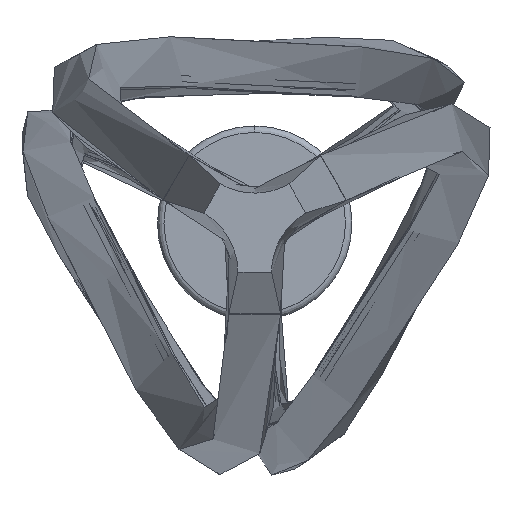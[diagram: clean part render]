
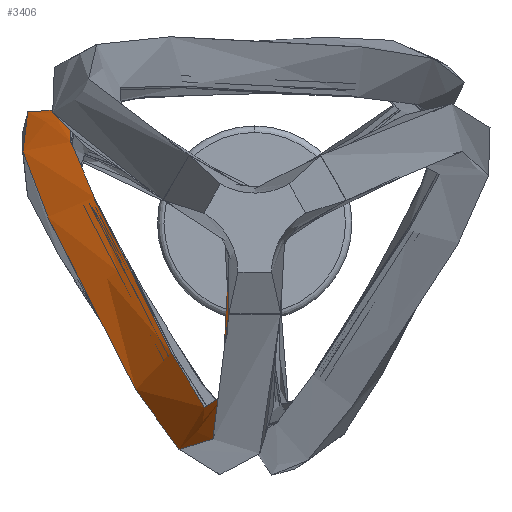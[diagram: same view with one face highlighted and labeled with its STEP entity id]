
A CAD part, front view. The second image highlights one B-rep face of the part: STEP entity #3406.
In plain terms, the highlighted free-form (B-spline) face has degree [3, 3] with [7, 7] control points.
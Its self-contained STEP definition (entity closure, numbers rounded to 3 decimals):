
#7 = CARTESIAN_POINT ( 'NONE',  ( -52.484, -1.238, -19.067 ) ) ;
#41 = CARTESIAN_POINT ( 'NONE',  ( -26.634, -205.84, -61.009 ) ) ;
#164 = CARTESIAN_POINT ( 'NONE',  ( -10.04, -853.448, -15.555 ) ) ;
#476 = EDGE_CURVE ( 'NONE', #5943, #5347, #1236, .T. ) ;
#534 = VECTOR ( 'NONE', #5679, 1000. ) ;
#625 = CARTESIAN_POINT ( 'NONE',  ( -10.064, -857.416, -33.453 ) ) ;
#656 = CARTESIAN_POINT ( 'NONE',  ( -21.331, 856.717, 23.653 ) ) ;
#684 = CARTESIAN_POINT ( 'NONE',  ( -100.992, 462.391, 70.646 ) ) ;
#696 = ORIENTED_EDGE ( 'NONE', *, *, #476, .F. ) ;
#718 = CARTESIAN_POINT ( 'NONE',  ( -69.536, 197.442, 25.523 ) ) ;
#731 = CARTESIAN_POINT ( 'NONE',  ( -10.067, -857.777, -35.081 ) ) ;
#846 = CARTESIAN_POINT ( 'NONE',  ( -25.588, 857.799, 26.041 ) ) ;
#919 = EDGE_LOOP ( 'NONE', ( #2603, #1098, #696, #4002 ) ) ;
#1048 = CARTESIAN_POINT ( 'NONE',  ( -10.04, -853.448, -15.555 ) ) ;
#1098 = ORIENTED_EDGE ( 'NONE', *, *, #8335, .T. ) ;
#1111 = CARTESIAN_POINT ( 'NONE',  ( -10.067, -857.777, -35.081 ) ) ;
#1236 = LINE ( 'NONE', #2486, #3843 ) ;
#1315 = CARTESIAN_POINT ( 'NONE',  ( -39.292, -207.339, -75.053 ) ) ;
#1348 = CARTESIAN_POINT ( 'NONE',  ( -8.68, -463.893, -120.677 ) ) ;
#1378 = CARTESIAN_POINT ( 'NONE',  ( -10.042, -853.809, -17.182 ) ) ;
#1417 = CARTESIAN_POINT ( 'NONE',  ( -8.559, 853.471, 16.488 ) ) ;
#1745 = CARTESIAN_POINT ( 'NONE',  ( -5.412, -462.365, -111.907 ) ) ;
#2015 = CARTESIAN_POINT ( 'NONE',  ( -87.655, 198.871, 21.474 ) ) ;
#2051 = CARTESIAN_POINT ( 'NONE',  ( -56.821, -1.24, -21.582 ) ) ;
#2078 = CARTESIAN_POINT ( 'NONE',  ( -27.785, -205.976, -62.286 ) ) ;
#2123 = CARTESIAN_POINT ( 'NONE',  ( -40.442, -207.475, -76.33 ) ) ;
#2486 = CARTESIAN_POINT ( 'NONE',  ( 161.626, 810.213, -78.989 ) ) ;
#2603 = ORIENTED_EDGE ( 'NONE', *, *, #4573, .F. ) ;
#2693 = CARTESIAN_POINT ( 'NONE',  ( -10.067, -857.777, -35.081 ) ) ;
#2721 = CARTESIAN_POINT ( 'NONE',  ( -24.169, 857.439, 25.245 ) ) ;
#2750 = CARTESIAN_POINT ( 'NONE',  ( -105.573, 463.146, 71.384 ) ) ;
#2782 = CARTESIAN_POINT ( 'NONE',  ( -71.183, 197.572, 25.155 ) ) ;
#2834 = CARTESIAN_POINT ( 'NONE',  ( -89.302, 199., 21.106 ) ) ;
#3139 = CARTESIAN_POINT ( 'NONE',  ( -48.146, -1.236, -16.552 ) ) ;
#3384 = CARTESIAN_POINT ( 'NONE',  ( -40.442, -207.475, -76.33 ) ) ;
#3406 = ADVANCED_FACE ( 'NONE', ( #6883 ), #8098, .T. ) ;
#3412 = CARTESIAN_POINT ( 'NONE',  ( -10.314, -464.658, -125.062 ) ) ;
#3444 = CARTESIAN_POINT ( 'NONE',  ( -10.047, -854.531, -20.436 ) ) ;
#3476 = CARTESIAN_POINT ( 'NONE',  ( -9.978, 853.832, 17.284 ) ) ;
#3521 = CARTESIAN_POINT ( 'NONE',  ( -25.588, 857.799, 26.041 ) ) ;
#3830 = CARTESIAN_POINT ( 'NONE',  ( -96.412, 461.636, 69.907 ) ) ;
#3843 = VECTOR ( 'NONE', #7302, 1000. ) ;
#4002 = ORIENTED_EDGE ( 'NONE', *, *, #7462, .F. ) ;
#4064 = CARTESIAN_POINT ( 'NONE',  ( -89.302, 199., 21.106 ) ) ;
#4095 = CARTESIAN_POINT ( 'NONE',  ( -61.159, -1.243, -24.096 ) ) ;
#4124 = CARTESIAN_POINT ( 'NONE',  ( -30.086, -206.249, -64.84 ) ) ;
#4151 = CARTESIAN_POINT ( 'NONE',  ( -5.412, -462.365, -111.907 ) ) ;
#4335 = CARTESIAN_POINT ( 'NONE',  ( -10.04, -853.448, -15.555 ) ) ;
#4573 = EDGE_CURVE ( 'NONE', #6800, #5471, #8090, .T. ) ;
#4747 = CARTESIAN_POINT ( 'NONE',  ( -25.588, 857.799, 26.041 ) ) ;
#4772 = CARTESIAN_POINT ( 'NONE',  ( -110.153, 463.901, 72.123 ) ) ;
#4810 = CARTESIAN_POINT ( 'NONE',  ( -74.477, 197.832, 24.419 ) ) ;
#4846 = CARTESIAN_POINT ( 'NONE',  ( -48.146, -1.236, -16.552 ) ) ;
#5347 = VERTEX_POINT ( 'NONE', #7583 ) ;
#5462 = CARTESIAN_POINT ( 'NONE',  ( -11.403, -465.167, -127.985 ) ) ;
#5471 = VERTEX_POINT ( 'NONE', #1111 ) ;
#5490 = CARTESIAN_POINT ( 'NONE',  ( -10.053, -855.613, -25.318 ) ) ;
#5524 = CARTESIAN_POINT ( 'NONE',  ( -12.816, 854.553, 18.876 ) ) ;
#5552 = CARTESIAN_POINT ( 'NONE',  ( -96.412, 461.636, 69.907 ) ) ;
#5679 = DIRECTION ( 'NONE',  ( -0.001, -0.216, -0.976 ) ) ;
#5943 = VERTEX_POINT ( 'NONE', #846 ) ;
#6118 = CARTESIAN_POINT ( 'NONE',  ( -11.948, -465.422, -129.446 ) ) ;
#6144 = CARTESIAN_POINT ( 'NONE',  ( -64.051, -1.244, -25.773 ) ) ;
#6172 = CARTESIAN_POINT ( 'NONE',  ( -33.538, -206.657, -68.67 ) ) ;
#6202 = CARTESIAN_POINT ( 'NONE',  ( -5.957, -462.62, -113.368 ) ) ;
#6253 = CARTESIAN_POINT ( 'NONE',  ( -11.948, -465.422, -129.446 ) ) ;
#6800 = VERTEX_POINT ( 'NONE', #4335 ) ;
#6839 = CARTESIAN_POINT ( 'NONE',  ( -113.207, 464.404, 72.616 ) ) ;
#6870 = CARTESIAN_POINT ( 'NONE',  ( -79.419, 198.221, 23.314 ) ) ;
#6883 = FACE_OUTER_BOUND ( 'NONE', #919, .T. ) ;
#6905 = CARTESIAN_POINT ( 'NONE',  ( -49.592, -1.237, -17.39 ) ) ;
#6949 = CARTESIAN_POINT ( 'NONE',  ( -65.497, -1.245, -26.611 ) ) ;
#7262 = CARTESIAN_POINT ( 'NONE',  ( -26.634, -205.84, -61.009 ) ) ;
#7302 = DIRECTION ( 'NONE',  ( 0.851, -0.216, -0.478 ) ) ;
#7462 = EDGE_CURVE ( 'NONE', #5471, #5943, #8258, .T. ) ;
#7526 = CARTESIAN_POINT ( 'NONE',  ( -10.06, -856.695, -30.199 ) ) ;
#7560 = CARTESIAN_POINT ( 'NONE',  ( -17.074, 855.635, 21.265 ) ) ;
#7583 = CARTESIAN_POINT ( 'NONE',  ( -8.559, 853.471, 16.488 ) ) ;
#7590 = CARTESIAN_POINT ( 'NONE',  ( -97.939, 461.888, 70.153 ) ) ;
#7640 = CARTESIAN_POINT ( 'NONE',  ( -114.734, 464.656, 72.862 ) ) ;
#7952 = CARTESIAN_POINT ( 'NONE',  ( -69.536, 197.442, 25.523 ) ) ;
#8090 = LINE ( 'NONE', #164, #534 ) ;
#8098 = B_SPLINE_SURFACE_WITH_KNOTS ( 'NONE', 3, 3, ( 
 ( #2693, #6118, #3384, #8198, #4064, #8902, #4747 ),
 ( #625, #5462, #1315, #6144, #2015, #6839, #2721 ),
 ( #7526, #3412, #8222, #4095, #8933, #4772, #656 ),
 ( #5490, #1348, #6172, #2051, #6870, #2750, #7560 ),
 ( #3444, #8256, #4124, #7, #4810, #684, #5524 ),
 ( #1378, #6202, #2078, #6905, #2782, #7590, #3476 ),
 ( #8288, #4151, #41, #4846, #718, #5552, #1417 ) ),
 .UNSPECIFIED., .F., .F., .F.,
 ( 4, 1, 1, 1, 4 ),
 ( 4, 1, 1, 1, 4 ),
 ( 0., 0.055, 0.11, 0.165, 0.22 ),
 ( 0., 0.46, 0.514, 0.565, 1. ),
 .UNSPECIFIED. ) ;
#8198 = CARTESIAN_POINT ( 'NONE',  ( -65.497, -1.245, -26.611 ) ) ;
#8222 = CARTESIAN_POINT ( 'NONE',  ( -36.99, -207.066, -72.5 ) ) ;
#8256 = CARTESIAN_POINT ( 'NONE',  ( -7.046, -463.129, -116.292 ) ) ;
#8258 = B_SPLINE_CURVE_WITH_KNOTS ( 'NONE', 3,
 ( #731, #6253, #2123, #6949, #2834, #7640, #3521 ),
 .UNSPECIFIED., .F., .F.,
 ( 4, 1, 1, 1, 4 ),
 ( 0., 0.46, 0.514, 0.565, 1. ),
 .UNSPECIFIED. ) ;
#8288 = CARTESIAN_POINT ( 'NONE',  ( -10.04, -853.448, -15.555 ) ) ;
#8335 = EDGE_CURVE ( 'NONE', #6800, #5347, #8676, .T. ) ;
#8662 = CARTESIAN_POINT ( 'NONE',  ( -8.559, 853.471, 16.488 ) ) ;
#8676 = B_SPLINE_CURVE_WITH_KNOTS ( 'NONE', 3,
 ( #1048, #1745, #7262, #3139, #7952, #3830, #8662 ),
 .UNSPECIFIED., .F., .F.,
 ( 4, 1, 1, 1, 4 ),
 ( 0., 0.46, 0.514, 0.565, 1. ),
 .UNSPECIFIED. ) ;
#8902 = CARTESIAN_POINT ( 'NONE',  ( -114.734, 464.656, 72.862 ) ) ;
#8933 = CARTESIAN_POINT ( 'NONE',  ( -84.361, 198.611, 22.21 ) ) ;
